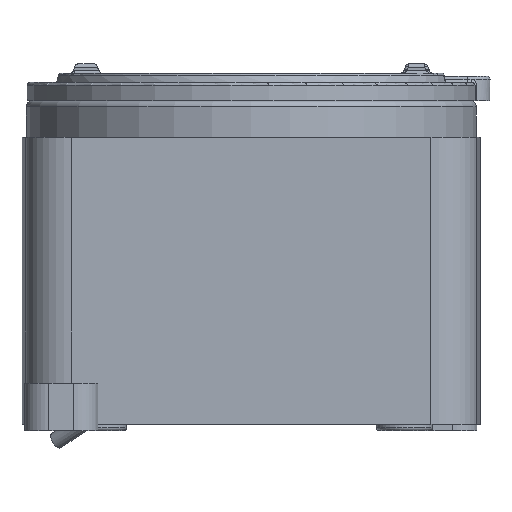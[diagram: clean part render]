
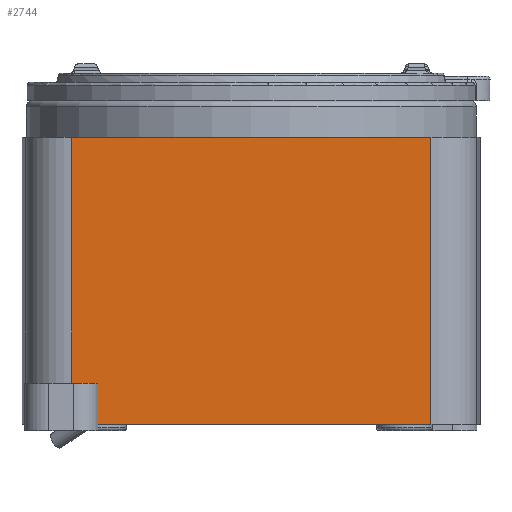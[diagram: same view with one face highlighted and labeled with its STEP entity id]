
A CAD part, front view. The second image highlights one B-rep face of the part: STEP entity #2744.
In plain terms, the highlighted planar face has unit normal (0, -1, 0).
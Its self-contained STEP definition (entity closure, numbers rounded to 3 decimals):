
#2307=FACE_OUTER_BOUND('',#5041,.T.);
#2744=ADVANCED_FACE('',(#2307),#3247,.F.);
#3247=PLANE('',#10463);
#3488=LINE('',#13475,#4160);
#3494=LINE('',#13504,#4166);
#3496=LINE('',#13514,#4168);
#3540=LINE('',#13847,#4212);
#3541=LINE('',#13848,#4213);
#3542=LINE('',#13850,#4214);
#4160=VECTOR('',#11198,1.);
#4166=VECTOR('',#11222,1.);
#4168=VECTOR('',#11232,1.);
#4212=VECTOR('',#11386,1.);
#4213=VECTOR('',#11387,1.);
#4214=VECTOR('',#11388,1.);
#5041=EDGE_LOOP('',(#5762,#5763,#5764,#5765,#5766,#5767));
#5762=ORIENTED_EDGE('',*,*,#8903,.F.);
#5763=ORIENTED_EDGE('',*,*,#8992,.T.);
#5764=ORIENTED_EDGE('',*,*,#8889,.T.);
#5765=ORIENTED_EDGE('',*,*,#8993,.T.);
#5766=ORIENTED_EDGE('',*,*,#8994,.F.);
#5767=ORIENTED_EDGE('',*,*,#8908,.T.);
#8084=VERTEX_POINT('',#13474);
#8085=VERTEX_POINT('',#13476);
#8098=VERTEX_POINT('',#13503);
#8099=VERTEX_POINT('',#13505);
#8103=VERTEX_POINT('',#13515);
#8161=VERTEX_POINT('',#13849);
#8889=EDGE_CURVE('',#8085,#8084,#3488,.T.);
#8903=EDGE_CURVE('',#8098,#8099,#3494,.T.);
#8908=EDGE_CURVE('',#8103,#8099,#3496,.T.);
#8992=EDGE_CURVE('',#8098,#8085,#3540,.T.);
#8993=EDGE_CURVE('',#8084,#8161,#3541,.T.);
#8994=EDGE_CURVE('',#8103,#8161,#3542,.T.);
#10463=AXIS2_PLACEMENT_3D('',#13851,#11389,#11390);
#11198=DIRECTION('',(1.,0.,0.));
#11222=DIRECTION('',(-1.,0.,0.));
#11232=DIRECTION('',(0.,0.,-1.));
#11386=DIRECTION('',(0.,0.,-1.));
#11387=DIRECTION('',(0.,0.,1.));
#11388=DIRECTION('',(1.,0.,0.));
#11389=DIRECTION('',(0.,1.,0.));
#11390=DIRECTION('',(-1.,0.,0.));
#13474=CARTESIAN_POINT('',(131.704,0.,0.));
#13475=CARTESIAN_POINT('',(0.,0.,0.));
#13476=CARTESIAN_POINT('',(22.714,0.,0.));
#13503=CARTESIAN_POINT('',(22.714,0.,13.5));
#13504=CARTESIAN_POINT('',(0.,0.,13.5));
#13505=CARTESIAN_POINT('',(14.296,0.,13.5));
#13514=CARTESIAN_POINT('',(14.296,0.,93.8));
#13515=CARTESIAN_POINT('',(14.296,0.,93.8));
#13847=CARTESIAN_POINT('',(22.714,0.,13.5));
#13848=CARTESIAN_POINT('',(131.704,0.,93.8));
#13849=CARTESIAN_POINT('',(131.704,0.,93.8));
#13850=CARTESIAN_POINT('',(0.,0.,93.8));
#13851=CARTESIAN_POINT('',(0.,0.,93.8));
